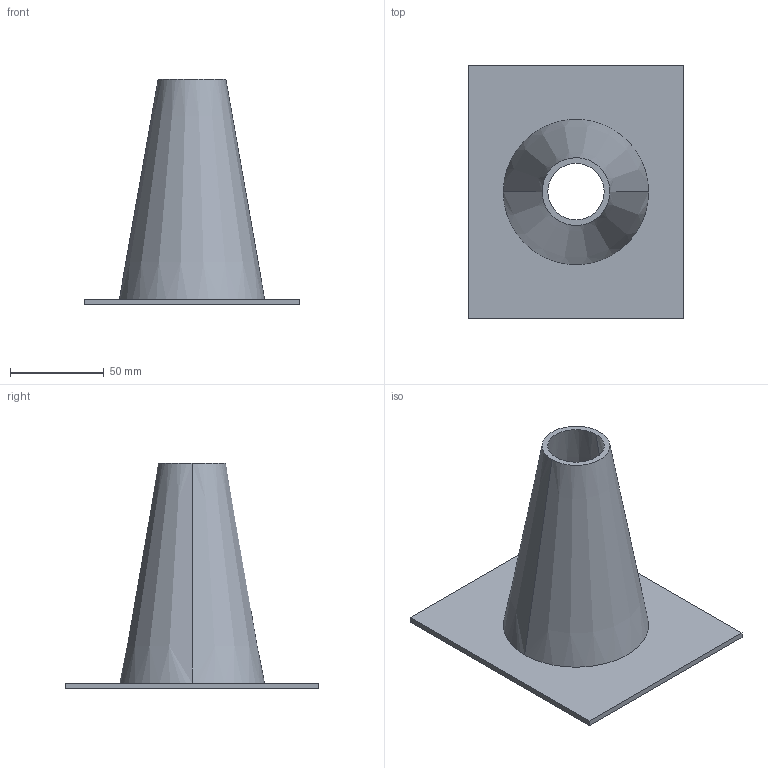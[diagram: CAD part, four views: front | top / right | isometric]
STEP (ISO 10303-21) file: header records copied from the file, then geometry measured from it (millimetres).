
FILE_DESCRIPTION(('CATIA V5 STEP Exchange'),'2;1');
FILE_NAME('C:\_Andres\UNIVERSIDAD\IQS\ASIGNATURAS\DAO\EXF\EXF-15161c\1original\Segura_Sánchez_Ej08-ensambla_v25.stp','2016-03-04T21:37:19+00:00',('none'),('none'),'CATIA Version 5 Release 20 SP 1 (IN-10)','CATIA V5 STEP AP203','none');
FILE_SCHEMA(('CONFIG_CONTROL_DESIGN'));
Length unit declared in the file: millimetre
Products named in the file (1): Segura_Sánchez_Ej08-ensambla_v25
Bounding box: 115 x 135 x 120 mm (x, y, z)
Volume: 94533.5 mm3; surface area: 64814.4 mm2
Topology: 1 solids, 1 shells, 11 faces, 24 edges, 16 vertices
Faces by surface type: plane 7, cone 4
Entity records: 414 total; most frequent: CARTESIAN_POINT 127, ORIENTED_EDGE 48, DIRECTION 44, EDGE_CURVE 24, AXIS2_PLACEMENT_3D 17, VECTOR 16, LINE 16, VERTEX_POINT 16
